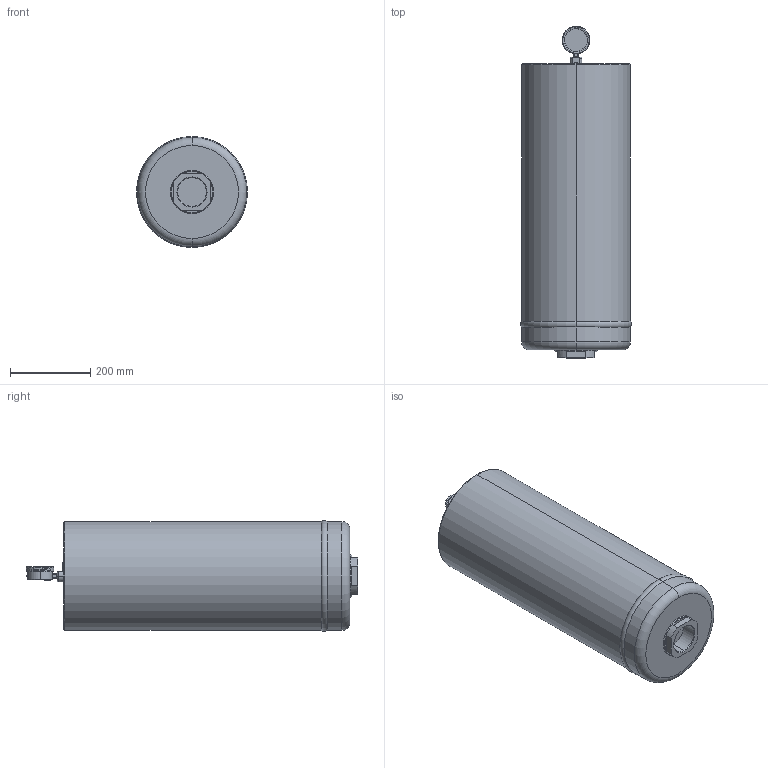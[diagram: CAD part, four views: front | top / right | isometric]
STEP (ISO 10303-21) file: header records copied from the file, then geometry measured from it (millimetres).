
FILE_DESCRIPTION (( 'STEP AP214' ), '1' );
FILE_NAME ('U250G10X1-AI (DGA).STEP', '2025-05-14T14:17:16', ( '' ), ( '' ), 'SwSTEP 2.0', 'SolidWorks 2024', '' );
FILE_SCHEMA (( 'AUTOMOTIVE_DESIGN' ));
Length unit declared in the file: millimetre
Products named in the file (1): U250G10X1-AI (DGA)
Bounding box: 276.13 x 825.4 x 276.13 mm (x, y, z)
Surface area: 827230.6 mm2 (no closed solid volume)
Topology: 0 solids, 18 shells, 516 faces, 1304 edges, 809 vertices
Faces by surface type: plane 156, cylinder 147, cone 73, torus 70, bspline 56, sphere 14
Entity records: 26765 total; most frequent: CARTESIAN_POINT 8809, DIRECTION 2608, ORIENTED_EDGE 2431, EDGE_CURVE 1290, AXIS2_PLACEMENT_3D 1072, VERTEX_POINT 809, CIRCLE 611, EDGE_LOOP 586
